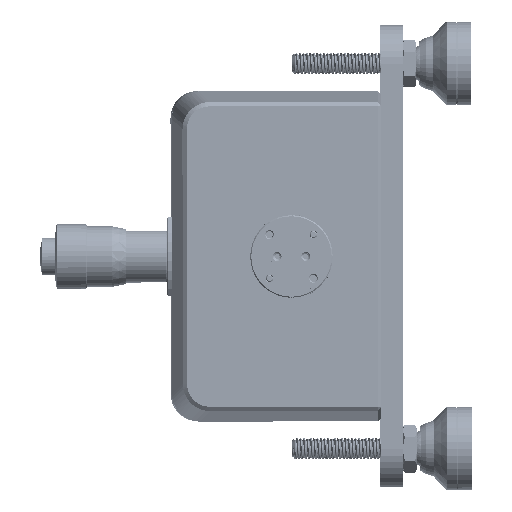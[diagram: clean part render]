
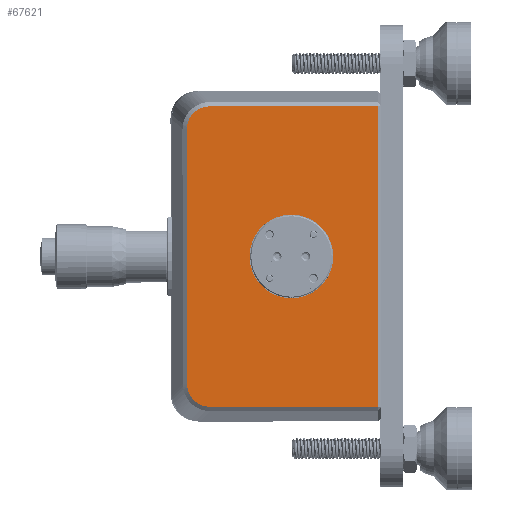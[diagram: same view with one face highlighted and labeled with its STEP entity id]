
A CAD part, left-side view. The second image highlights one B-rep face of the part: STEP entity #67621.
In plain terms, the highlighted planar face has unit normal (-1, -0.002, -0.001).
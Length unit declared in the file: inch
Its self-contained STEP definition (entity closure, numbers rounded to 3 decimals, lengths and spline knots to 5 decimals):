
#6922 = CIRCLE ( 'NONE', #224592, 0.38 ) ;
#12027 = CARTESIAN_POINT ( 'NONE',  ( -1.5937, -6.7461, -2.64177 ) ) ;
#14141 = CARTESIAN_POINT ( 'NONE',  ( -1.59303, -7.61424, -1.31728 ) ) ;
#19162 = DIRECTION ( 'NONE',  ( -0.001, 0.001, 1. ) ) ;
#31468 = CARTESIAN_POINT ( 'NONE',  ( -1.59395, -7.47747, 0.04762 ) ) ;
#37671 = CARTESIAN_POINT ( 'NONE',  ( -1.59303, -7.61424, -1.31728 ) ) ;
#39996 = DIRECTION ( 'NONE',  ( -1., -0.002, -0.001 ) ) ;
#40572 = CARTESIAN_POINT ( 'NONE',  ( -1.59283, -7.61473, -1.69728 ) ) ;
#43019 = VECTOR ( 'NONE', #360419, 39.37008 ) ;
#50128 = CARTESIAN_POINT ( 'NONE',  ( -1.59253, -7.48101, -2.68254 ) ) ;
#51834 = CARTESIAN_POINT ( 'NONE',  ( -1.59356, -6.81985, -2.67797 ) ) ;
#54159 = CARTESIAN_POINT ( 'NONE',  ( -1.59352, -6.84731, -2.68336 ) ) ;
#55985 = CARTESIAN_POINT ( 'NONE',  ( -1.59324, -7.47924, -1.31746 ) ) ;
#56500 = CARTESIAN_POINT ( 'NONE',  ( -1.59347, -6.87485, -2.68332 ) ) ;
#57169 = VECTOR ( 'NONE', #19162, 39.37008 ) ;
#58079 = B_SPLINE_CURVE_WITH_KNOTS ( 'NONE', 3,
 ( #373836, #265712, #411306, #261105, #298663, #12027, #413675, #51834, #54159, #56500 ),
 .UNSPECIFIED., .F., .F.,
 ( 4, 2, 2, 2, 4 ),
 ( 0., 0.25, 0.5, 0.75, 1. ),
 .UNSPECIFIED. ) ;
#62276 = VECTOR ( 'NONE', #390041, 39.37008 ) ;
#65096 = VERTEX_POINT ( 'NONE', #40572 ) ;
#67621 = ADVANCED_FACE ( 'NONE', ( #413171, #236915 ), #410807, .F. ) ;
#69259 = VECTOR ( 'NONE', #193474, 39.37008 ) ;
#78382 = CARTESIAN_POINT ( 'NONE',  ( -1.59513, -6.66802, -0.10736 ) ) ;
#84950 = EDGE_CURVE ( 'NONE', #249612, #65096, #6922, .T. ) ;
#85327 = CARTESIAN_POINT ( 'NONE',  ( -1.59498, -6.81633, 0.04132 ) ) ;
#87637 = CARTESIAN_POINT ( 'NONE',  ( -1.59513, -6.66262, -0.13482 ) ) ;
#95565 = ORIENTED_EDGE ( 'NONE', *, *, #270261, .T. ) ;
#101136 = CARTESIAN_POINT ( 'NONE',  ( -1.59451, -6.66416, -1.31852 ) ) ;
#104091 = AXIS2_PLACEMENT_3D ( 'NONE', #37671, #39996, #183349 ) ;
#109314 = EDGE_CURVE ( 'NONE', #397069, #418429, #385474, .T. ) ;
#124669 = CARTESIAN_POINT ( 'NONE',  ( -1.59109, -8.401, -2.68134 ) ) ;
#124966 = B_SPLINE_CURVE_WITH_KNOTS ( 'NONE', 3,
 ( #409534, #299181, #85327, #332363, #440118, #228630, #303876, #78382, #87637, #372061 ),
 .UNSPECIFIED., .F., .F.,
 ( 4, 2, 2, 2, 4 ),
 ( 0., 0.25, 0.5, 0.75, 1. ),
 .UNSPECIFIED. ) ;
#144661 = CARTESIAN_POINT ( 'NONE',  ( -1.59347, -6.87485, -2.68332 ) ) ;
#146605 = LINE ( 'NONE', #31468, #43019 ) ;
#164787 = LINE ( 'NONE', #376373, #57169 ) ;
#176455 = ORIENTED_EDGE ( 'NONE', *, *, #294201, .F. ) ;
#183349 = DIRECTION ( 'NONE',  ( -0.001, 0.001, 1. ) ) ;
#187648 = VERTEX_POINT ( 'NONE', #346437 ) ;
#187749 = ORIENTED_EDGE ( 'NONE', *, *, #261874, .T. ) ;
#193474 = DIRECTION ( 'NONE',  ( 0.002, -1., 0.001 ) ) ;
#194152 = CIRCLE ( 'NONE', #104091, 0.38 ) ;
#195189 = AXIS2_PLACEMENT_3D ( 'NONE', #55985, #377991, #307489 ) ;
#201643 = VERTEX_POINT ( 'NONE', #399890 ) ;
#202051 = ORIENTED_EDGE ( 'NONE', *, *, #314655, .T. ) ;
#214551 = EDGE_CURVE ( 'NONE', #187648, #397069, #58079, .T. ) ;
#217965 = CARTESIAN_POINT ( 'NONE',  ( -1.59511, -6.66266, -0.16236 ) ) ;
#224592 = AXIS2_PLACEMENT_3D ( 'NONE', #14141, #373654, #232535 ) ;
#228630 = CARTESIAN_POINT ( 'NONE',  ( -1.59511, -6.70421, -0.03361 ) ) ;
#232535 = DIRECTION ( 'NONE',  ( -0.001, 0.001, 1. ) ) ;
#233671 = ORIENTED_EDGE ( 'NONE', *, *, #334339, .T. ) ;
#236915 = FACE_OUTER_BOUND ( 'NONE', #377844, .T. ) ;
#244788 = ORIENTED_EDGE ( 'NONE', *, *, #109314, .T. ) ;
#249612 = VERTEX_POINT ( 'NONE', #414128 ) ;
#261105 = CARTESIAN_POINT ( 'NONE',  ( -1.59381, -6.69203, -2.5801 ) ) ;
#261874 = EDGE_CURVE ( 'NONE', #283758, #187648, #350346, .T. ) ;
#265712 = CARTESIAN_POINT ( 'NONE',  ( -1.59389, -6.66569, -2.50216 ) ) ;
#270261 = EDGE_CURVE ( 'NONE', #418429, #201643, #164787, .T. ) ;
#283758 = VERTEX_POINT ( 'NONE', #217965 ) ;
#294201 = EDGE_CURVE ( 'NONE', #65096, #249612, #194152, .T. ) ;
#298663 = CARTESIAN_POINT ( 'NONE',  ( -1.59378, -6.70755, -2.60331 ) ) ;
#299181 = CARTESIAN_POINT ( 'NONE',  ( -1.59494, -6.84382, 0.0468 ) ) ;
#303876 = CARTESIAN_POINT ( 'NONE',  ( -1.59513, -6.68876, -0.05687 ) ) ;
#307489 = DIRECTION ( 'NONE',  ( 0.001, -0.001, -1. ) ) ;
#314655 = EDGE_CURVE ( 'NONE', #201643, #379362, #146605, .T. ) ;
#332363 = CARTESIAN_POINT ( 'NONE',  ( -1.59505, -6.76588, 0.02046 ) ) ;
#334339 = EDGE_CURVE ( 'NONE', #379362, #283758, #124966, .T. ) ;
#346437 = CARTESIAN_POINT ( 'NONE',  ( -1.59391, -6.66566, -2.47467 ) ) ;
#350346 = LINE ( 'NONE', #101136, #62276 ) ;
#351506 = ORIENTED_EDGE ( 'NONE', *, *, #214551, .T. ) ;
#359549 = ORIENTED_EDGE ( 'NONE', *, *, #84950, .F. ) ;
#360419 = DIRECTION ( 'NONE',  ( -0.002, 1., -0.001 ) ) ;
#372061 = CARTESIAN_POINT ( 'NONE',  ( -1.59511, -6.66266, -0.16236 ) ) ;
#373654 = DIRECTION ( 'NONE',  ( -1., -0.002, -0.001 ) ) ;
#373836 = CARTESIAN_POINT ( 'NONE',  ( -1.59391, -6.66566, -2.47467 ) ) ;
#376373 = CARTESIAN_POINT ( 'NONE',  ( -1.5918, -8.39923, -1.31627 ) ) ;
#377844 = EDGE_LOOP ( 'NONE', ( #351506, #244788, #95565, #202051, #233671, #187749 ) ) ;
#377991 = DIRECTION ( 'NONE',  ( 1., 0.002, 0.001 ) ) ;
#379362 = VERTEX_POINT ( 'NONE', #402605 ) ;
#385474 = LINE ( 'NONE', #50128, #69259 ) ;
#390041 = DIRECTION ( 'NONE',  ( 0.001, -0.001, -1. ) ) ;
#397069 = VERTEX_POINT ( 'NONE', #144661 ) ;
#399890 = CARTESIAN_POINT ( 'NONE',  ( -1.59251, -8.39746, 0.04881 ) ) ;
#402605 = CARTESIAN_POINT ( 'NONE',  ( -1.59489, -6.87131, 0.04683 ) ) ;
#409534 = CARTESIAN_POINT ( 'NONE',  ( -1.59489, -6.87131, 0.04683 ) ) ;
#410807 = PLANE ( 'NONE',  #195189 ) ;
#411306 = CARTESIAN_POINT ( 'NONE',  ( -1.59387, -6.67116, -2.52965 ) ) ;
#413171 = FACE_BOUND ( 'NONE', #460882, .T. ) ;
#413675 = CARTESIAN_POINT ( 'NONE',  ( -1.59365, -6.76936, -2.65723 ) ) ;
#414128 = CARTESIAN_POINT ( 'NONE',  ( -1.59322, -7.61374, -0.93729 ) ) ;
#418429 = VERTEX_POINT ( 'NONE', #124669 ) ;
#440118 = CARTESIAN_POINT ( 'NONE',  ( -1.59507, -6.74267, 0.00494 ) ) ;
#460882 = EDGE_LOOP ( 'NONE', ( #359549, #176455 ) ) ;
